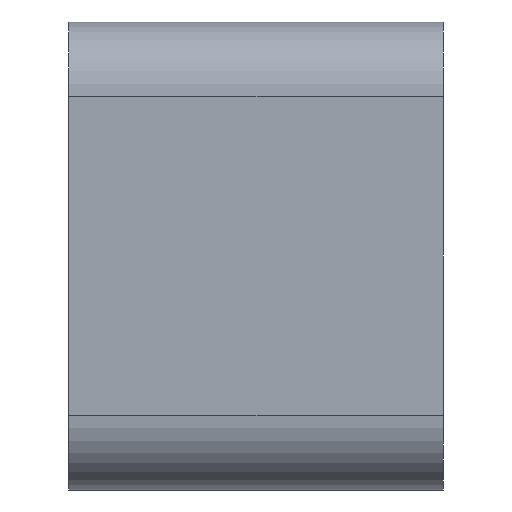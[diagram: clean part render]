
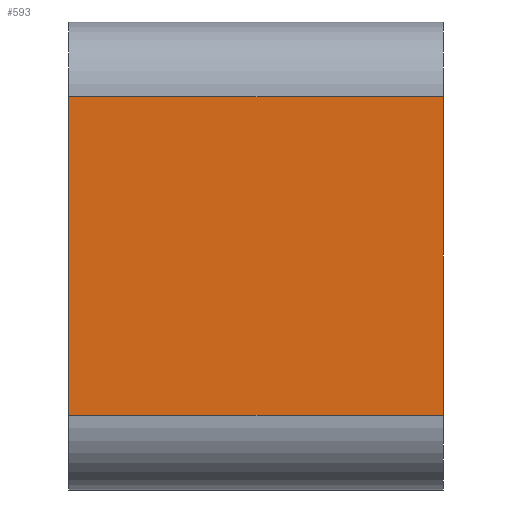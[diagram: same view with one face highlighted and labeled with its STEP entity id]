
A CAD part, left-side view. The second image highlights one B-rep face of the part: STEP entity #593.
In plain terms, the highlighted planar face has unit normal (-1, 0, 0).
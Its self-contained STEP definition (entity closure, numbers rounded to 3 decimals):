
#8 = VERTEX_POINT ( 'NONE', #976 ) ;
#41 = LINE ( 'NONE', #473, #551 ) ;
#49 = VECTOR ( 'NONE', #446, 1000. ) ;
#73 = EDGE_CURVE ( 'NONE', #419, #8, #246, .T. ) ;
#119 = CARTESIAN_POINT ( 'NONE',  ( -24., 20., 8.5 ) ) ;
#129 = CARTESIAN_POINT ( 'NONE',  ( -24., 20., -8.5 ) ) ;
#157 = FACE_OUTER_BOUND ( 'NONE', #916, .T. ) ;
#204 = DIRECTION ( 'NONE',  ( 0., -1., 0. ) ) ;
#241 = EDGE_CURVE ( 'NONE', #8, #440, #584, .T. ) ;
#246 = LINE ( 'NONE', #430, #49 ) ;
#279 = ORIENTED_EDGE ( 'NONE', *, *, #241, .T. ) ;
#320 = CARTESIAN_POINT ( 'NONE',  ( -24., 20., -12.5 ) ) ;
#347 = EDGE_CURVE ( 'NONE', #774, #419, #540, .T. ) ;
#365 = VECTOR ( 'NONE', #204, 1000. ) ;
#385 = DIRECTION ( 'NONE',  ( 0., 1., 0. ) ) ;
#419 = VERTEX_POINT ( 'NONE', #805 ) ;
#430 = CARTESIAN_POINT ( 'NONE',  ( -24., 0., -12.5 ) ) ;
#440 = VERTEX_POINT ( 'NONE', #119 ) ;
#446 = DIRECTION ( 'NONE',  ( 0., 0., 1. ) ) ;
#473 = CARTESIAN_POINT ( 'NONE',  ( -24., 20., -12.5 ) ) ;
#496 = EDGE_CURVE ( 'NONE', #774, #440, #41, .T. ) ;
#526 = CARTESIAN_POINT ( 'NONE',  ( -24., 20., 8.5 ) ) ;
#540 = LINE ( 'NONE', #129, #365 ) ;
#551 = VECTOR ( 'NONE', #857, 1000. ) ;
#570 = ORIENTED_EDGE ( 'NONE', *, *, #347, .T. ) ;
#584 = LINE ( 'NONE', #526, #862 ) ;
#593 = ADVANCED_FACE ( 'NONE', ( #157 ), #928, .F. ) ;
#694 = DIRECTION ( 'NONE',  ( 1., 0., 0. ) ) ;
#727 = ORIENTED_EDGE ( 'NONE', *, *, #496, .F. ) ;
#774 = VERTEX_POINT ( 'NONE', #961 ) ;
#805 = CARTESIAN_POINT ( 'NONE',  ( -24., 0., -8.5 ) ) ;
#848 = DIRECTION ( 'NONE',  ( 0., 0., -1. ) ) ;
#850 = AXIS2_PLACEMENT_3D ( 'NONE', #320, #694, #848 ) ;
#857 = DIRECTION ( 'NONE',  ( 0., 0., 1. ) ) ;
#862 = VECTOR ( 'NONE', #385, 1000. ) ;
#899 = ORIENTED_EDGE ( 'NONE', *, *, #73, .T. ) ;
#916 = EDGE_LOOP ( 'NONE', ( #899, #279, #727, #570 ) ) ;
#928 = PLANE ( 'NONE',  #850 ) ;
#961 = CARTESIAN_POINT ( 'NONE',  ( -24., 20., -8.5 ) ) ;
#976 = CARTESIAN_POINT ( 'NONE',  ( -24., 0., 8.5 ) ) ;
